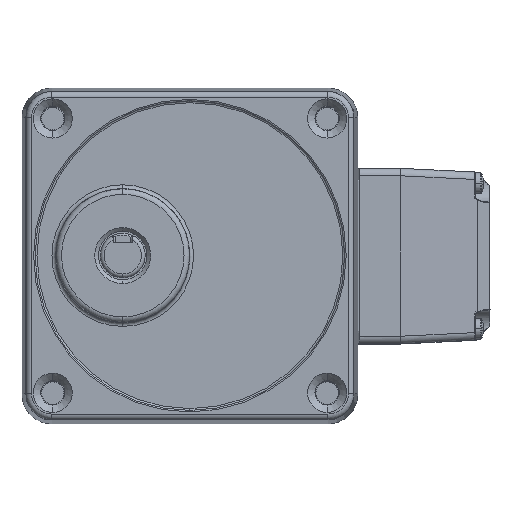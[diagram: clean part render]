
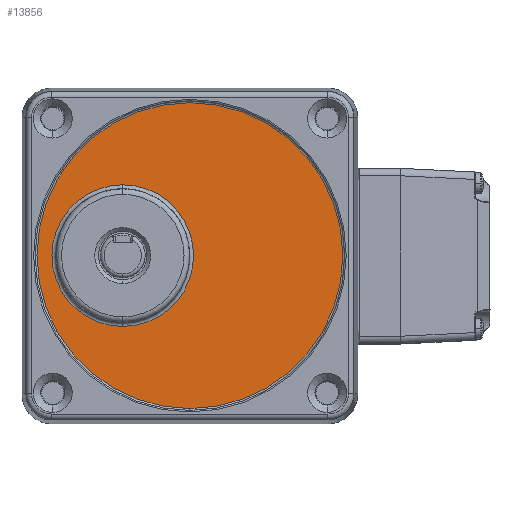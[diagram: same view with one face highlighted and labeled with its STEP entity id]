
A CAD part, top view. The second image highlights one B-rep face of the part: STEP entity #13856.
In plain terms, the highlighted planar face has unit normal (0, 0, 1) as drawn and (1, 0, 0) by its records, which use the part's own axes.
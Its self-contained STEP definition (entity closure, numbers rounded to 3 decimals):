
#1137 = AXIS2_PLACEMENT_3D ( 'NONE', #14797, #47779, #23691 ) ;
#1666 = CIRCLE ( 'NONE', #37036, 18.983 ) ;
#3330 = ORIENTED_EDGE ( 'NONE', *, *, #7962, .F. ) ;
#3662 = CARTESIAN_POINT ( 'NONE',  ( 2697.792, -794.14, 18. ) ) ;
#3959 = ORIENTED_EDGE ( 'NONE', *, *, #46702, .F. ) ;
#5014 = DIRECTION ( 'NONE',  ( 1., 0., 0. ) ) ;
#5868 = EDGE_LOOP ( 'NONE', ( #41960, #3959 ) ) ;
#7962 = EDGE_CURVE ( 'NONE', #46988, #26954, #1666, .T. ) ;
#8033 = CARTESIAN_POINT ( 'NONE',  ( 2697.792, -734.166, 0. ) ) ;
#8157 = EDGE_LOOP ( 'NONE', ( #53113, #3330 ) ) ;
#8416 = AXIS2_PLACEMENT_3D ( 'NONE', #49156, #12118, #11590 ) ;
#10264 = EDGE_CURVE ( 'NONE', #26954, #46988, #17708, .T. ) ;
#10980 = VERTEX_POINT ( 'NONE', #8033 ) ;
#11014 = CIRCLE ( 'NONE', #8416, 40.991 ) ;
#11590 = DIRECTION ( 'NONE',  ( 0., 1., 0. ) ) ;
#12118 = DIRECTION ( 'NONE',  ( -1., 0., 0. ) ) ;
#13856 = ADVANCED_FACE ( 'NONE', ( #43960, #52082 ), #28234, .T. ) ;
#14797 = CARTESIAN_POINT ( 'NONE',  ( 2697.792, -775.157, 0. ) ) ;
#16703 = CIRCLE ( 'NONE', #1137, 40.991 ) ;
#17708 = CIRCLE ( 'NONE', #47937, 18.983 ) ;
#21652 = DIRECTION ( 'NONE',  ( 0., -1., 0. ) ) ;
#23146 = AXIS2_PLACEMENT_3D ( 'NONE', #36082, #48544, #27185 ) ;
#23691 = DIRECTION ( 'NONE',  ( 0., -1., 0. ) ) ;
#26954 = VERTEX_POINT ( 'NONE', #3662 ) ;
#27185 = DIRECTION ( 'NONE',  ( 0., 1., 0. ) ) ;
#28198 = EDGE_CURVE ( 'NONE', #36402, #10980, #16703, .T. ) ;
#28234 = PLANE ( 'NONE',  #23146 ) ;
#34338 = CARTESIAN_POINT ( 'NONE',  ( 2697.792, -775.157, 18. ) ) ;
#36082 = CARTESIAN_POINT ( 'NONE',  ( 2697.792, -775.157, 0. ) ) ;
#36402 = VERTEX_POINT ( 'NONE', #43030 ) ;
#37036 = AXIS2_PLACEMENT_3D ( 'NONE', #49376, #5014, #41792 ) ;
#37854 = DIRECTION ( 'NONE',  ( 1., 0., 0. ) ) ;
#41792 = DIRECTION ( 'NONE',  ( 0., 1., 0. ) ) ;
#41960 = ORIENTED_EDGE ( 'NONE', *, *, #28198, .F. ) ;
#43030 = CARTESIAN_POINT ( 'NONE',  ( 2697.792, -816.149, 0. ) ) ;
#43960 = FACE_OUTER_BOUND ( 'NONE', #5868, .T. ) ;
#46702 = EDGE_CURVE ( 'NONE', #10980, #36402, #11014, .T. ) ;
#46988 = VERTEX_POINT ( 'NONE', #51285 ) ;
#47779 = DIRECTION ( 'NONE',  ( -1., 0., 0. ) ) ;
#47937 = AXIS2_PLACEMENT_3D ( 'NONE', #34338, #37854, #21652 ) ;
#48544 = DIRECTION ( 'NONE',  ( 1., 0., 0. ) ) ;
#49156 = CARTESIAN_POINT ( 'NONE',  ( 2697.792, -775.157, 0. ) ) ;
#49376 = CARTESIAN_POINT ( 'NONE',  ( 2697.792, -775.157, 18. ) ) ;
#51285 = CARTESIAN_POINT ( 'NONE',  ( 2697.792, -756.175, 18. ) ) ;
#52082 = FACE_BOUND ( 'NONE', #8157, .T. ) ;
#53113 = ORIENTED_EDGE ( 'NONE', *, *, #10264, .F. ) ;
